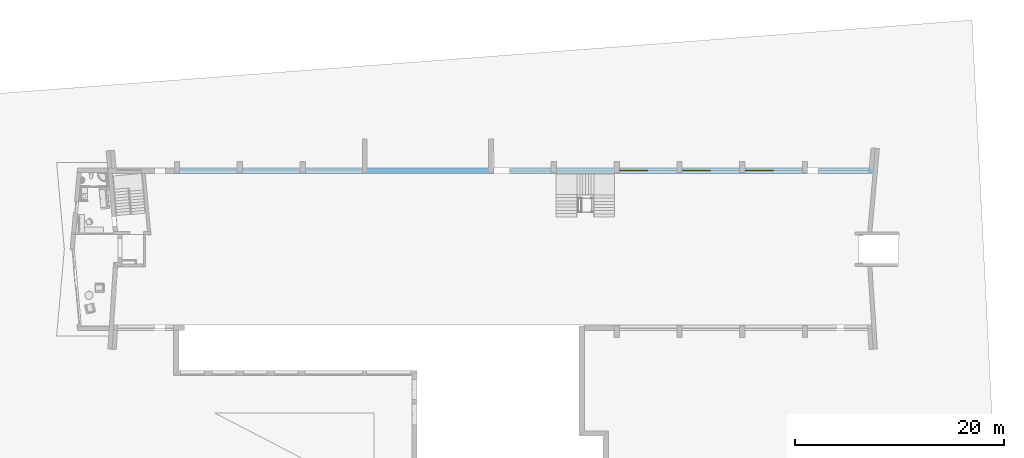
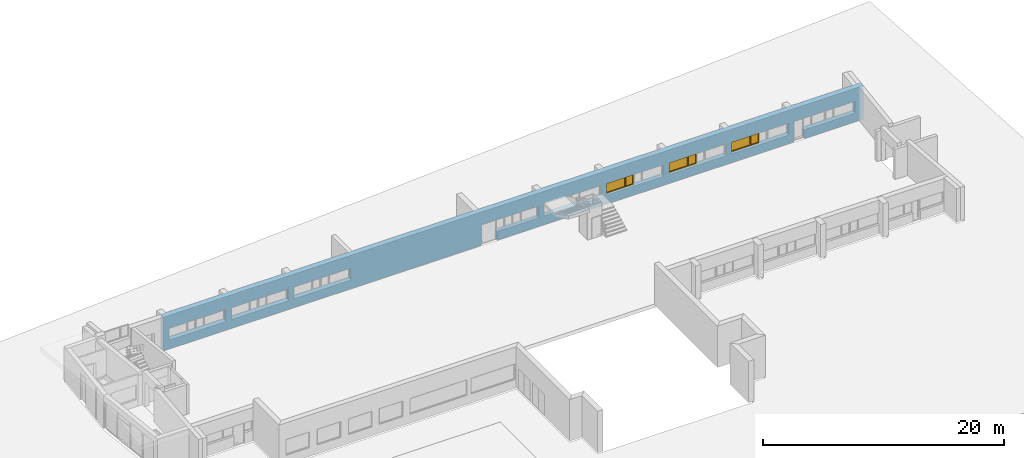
# One storey, part 8 of 36: 3 windows, 20 openings, plus 1 element that does not belong to this part.
"""IFC2X3 building model written with IfcOpenShell, lengths in millimetres."""

from ifc_helpers import new_model, entity, si_unit, converted_unit, money_unit, direction, frame, origin_with_axes, place, context, subcontext, project, spatial, polyline, outline, extrude, open_shell, faceted_brep, surface_model, source, transform, mapped, material, material_list, layer, layer_set, layer_usage, type_object, element, fill, save


model = new_model("IFC2X3")

# Units and contexts
model_context = context("Model", 3, precision=1e-05, world=origin_with_axes(), true_north=direction((0.0, 1.0)))
body_context = subcontext(model_context, "Body", "Model", "MODEL_VIEW")
ifc_project = project(units=[si_unit("LENGTHUNIT", "METRE", prefix="MILLI"), si_unit("AREAUNIT", "SQUARE_METRE"), si_unit("VOLUMEUNIT", "CUBIC_METRE"), converted_unit("PLANEANGLEUNIT", "DEGREE", entity("IfcPlaneAngleMeasure", 0.0174532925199), si_unit("PLANEANGLEUNIT", "RADIAN"), dimensions=[0, 0, 0, 0, 0, 0, 0]), si_unit("SOLIDANGLEUNIT", "STERADIAN"), money_unit("USD"), converted_unit("TIMEUNIT", "Year", entity("IfcTimeMeasure", 31556926.0), si_unit("TIMEUNIT", "SECOND"), dimensions=[0, 0, 0, 0, 0, 0, 0]), si_unit("MASSUNIT", "GRAM"), si_unit("THERMODYNAMICTEMPERATUREUNIT", "DEGREE_CELSIUS"), si_unit("LUMINOUSINTENSITYUNIT", "LUMEN")], contexts=[model_context])

# Site, building, storey
site_placement = place(None, origin_with_axes())
site = spatial("IfcSite", under=ifc_project, at=site_placement, Name="Site", CompositionType="ELEMENT")
building_placement = place(site_placement, origin_with_axes())
building = spatial("IfcBuilding", under=site, at=building_placement, Name="Building", CompositionType="ELEMENT")
storey_placement = place(building_placement, frame((0.0, 0.0, -3400.0), z_axis=(0.0, 0.0, 1.0), x_axis=(1.0, 0.0, 0.0)))
storey = spatial("IfcBuildingStorey", under=building, at=storey_placement, Name="1KORRUS", CompositionType="ELEMENT", Elevation=-3400.0)

# Wall, openings, windows
ifc_material_1 = material(Name="Olemasolevad seinad tellis, uus viimistlus")
ifc_layer = layer(ifc_material_1, 500.0, ventilated="UNKNOWN")
ifc_layer_set = layer_set([ifc_layer], Name="Olemasolevad seinad tellis, uus viimistlus 500")
ifc_layer_usage = layer_usage(ifc_layer_set, "AXIS2", "POSITIVE", -100.0)
wall_type = type_object("IfcWallType", Name="Olemasolevad seinad tellis, uus viimistlus 500", PredefinedType="NOTDEFINED")
wall_placement = place(storey_placement, frame((-48393.8274049, -5039.6041088, 0.0), z_axis=(0.0, 0.0, 1.0), x_axis=(1.0, 0.0, 0.0)))
wall = element("IfcWallStandardCase", 1, at=wall_placement, inside=storey, type_object=wall_type, material=ifc_layer_usage, Name="VS1", ObjectType="VS1", context=body_context, shape_type="SweptSolid", body=[
    extrude(outline(polyline([(0.0, -100.0), (67149.8194303, -100.0), (67149.8194303, 400.0), (0.0, 400.0), (0.0, -100.0)])), origin_with_axes(), (0.0, 0.0, 1.0), 3400.0),
])
opening_1_placement = place(wall_placement, frame((1878.53070154, 0.0, 900.0), z_axis=(0.0, 0.0, 1.0), x_axis=(1.0, 0.0, 0.0)))
element("IfcOpeningElement", 2, at=opening_1_placement, cuts=wall, Name="Olemasolevad aknad jäävad", context=body_context, shape_type="SweptSolid", body=[
    extrude(outline(polyline([(-1375.0, 1200.0), (-1375.0, 0.0), (1375.0, 0.0), (1375.0, 1200.0), (-1375.0, 1200.0)])), frame((0.0, 250.0, 0.0), z_axis=(0.0, -1.0, 0.0), x_axis=(1.0, 0.0, 0.0)), (0.0, 0.0, 1.0), 850.0),
    extrude(outline(polyline([(-1375.0, 0.0), (-1375.0, -1200.0), (1375.0, -1200.0), (1375.0, 0.0), (-1375.0, 0.0)])), frame((0.0, 250.0, 0.0), z_axis=(0.0, 1.0, 0.0), x_axis=(1.0, 0.0, 0.0)), (0.0, 0.0, 1.0), 650.0),
])
opening_2_placement = place(wall_placement, frame((7878.53070154, 0.0, 900.0), z_axis=(0.0, 0.0, 1.0), x_axis=(1.0, 0.0, 0.0)))
element("IfcOpeningElement", 3, at=opening_2_placement, cuts=wall, Name="Olemasolevad aknad jäävad", context=body_context, shape_type="SweptSolid", body=[
    extrude(outline(polyline([(-1375.0, 1200.0), (-1375.0, 0.0), (1375.0, 0.0), (1375.0, 1200.0), (-1375.0, 1200.0)])), frame((0.0, 250.0, 0.0), z_axis=(0.0, -1.0, 0.0), x_axis=(1.0, 0.0, 0.0)), (0.0, 0.0, 1.0), 850.0),
    extrude(outline(polyline([(-1375.0, 0.0), (-1375.0, -1200.0), (1375.0, -1200.0), (1375.0, 0.0), (-1375.0, 0.0)])), frame((0.0, 250.0, 0.0), z_axis=(0.0, 1.0, 0.0), x_axis=(1.0, 0.0, 0.0)), (0.0, 0.0, 1.0), 650.0),
])
opening_3_placement = place(wall_placement, frame((13878.5307015, 0.0, 900.0), z_axis=(0.0, 0.0, 1.0), x_axis=(1.0, 0.0, 0.0)))
element("IfcOpeningElement", 4, at=opening_3_placement, cuts=wall, Name="Olemasolevad aknad jäävad", context=body_context, shape_type="SweptSolid", body=[
    extrude(outline(polyline([(-1375.0, 1200.0), (-1375.0, 0.0), (1375.0, 0.0), (1375.0, 1200.0), (-1375.0, 1200.0)])), frame((0.0, 250.0, 0.0), z_axis=(0.0, -1.0, 0.0), x_axis=(1.0, 0.0, 0.0)), (0.0, 0.0, 1.0), 850.0),
    extrude(outline(polyline([(-1375.0, 0.0), (-1375.0, -1200.0), (1375.0, -1200.0), (1375.0, 0.0), (-1375.0, 0.0)])), frame((0.0, 250.0, 0.0), z_axis=(0.0, 1.0, 0.0), x_axis=(1.0, 0.0, 0.0)), (0.0, 0.0, 1.0), 650.0),
])
opening_4_placement = place(wall_placement, frame((4628.53070154, 0.0, 900.0), z_axis=(0.0, 0.0, 1.0), x_axis=(1.0, 0.0, 0.0)))
element("IfcOpeningElement", 5, at=opening_4_placement, cuts=wall, Name="Olemasolevad aknad jäävad", context=body_context, shape_type="SweptSolid", body=[
    extrude(outline(polyline([(1375.0, 1200.0), (-1375.0, 1200.0), (-1375.0, 0.0), (1375.0, 0.0), (1375.0, 1200.0)])), frame((0.0, 250.0, 0.0), z_axis=(0.0, -1.0, 0.0), x_axis=(1.0, 0.0, 0.0)), (0.0, 0.0, 1.0), 850.0),
    extrude(outline(polyline([(1375.0, 0.0), (-1375.0, 0.0), (-1375.0, -1200.0), (1375.0, -1200.0), (1375.0, 0.0)])), frame((0.0, 250.0, 0.0), z_axis=(0.0, 1.0, 0.0), x_axis=(1.0, 0.0, 0.0)), (0.0, 0.0, 1.0), 650.0),
])
opening_5_placement = place(wall_placement, frame((10628.5307015, 0.0, 900.0), z_axis=(0.0, 0.0, 1.0), x_axis=(1.0, 0.0, 0.0)))
element("IfcOpeningElement", 6, at=opening_5_placement, cuts=wall, Name="Olemasolevad aknad jäävad", context=body_context, shape_type="SweptSolid", body=[
    extrude(outline(polyline([(1375.0, 1200.0), (-1375.0, 1200.0), (-1375.0, 0.0), (1375.0, 0.0), (1375.0, 1200.0)])), frame((0.0, 250.0, 0.0), z_axis=(0.0, -1.0, 0.0), x_axis=(1.0, 0.0, 0.0)), (0.0, 0.0, 1.0), 850.0),
    extrude(outline(polyline([(1375.0, 0.0), (-1375.0, 0.0), (-1375.0, -1200.0), (1375.0, -1200.0), (1375.0, 0.0)])), frame((0.0, 250.0, 0.0), z_axis=(0.0, 1.0, 0.0), x_axis=(1.0, 0.0, 0.0)), (0.0, 0.0, 1.0), 650.0),
])
opening_6_placement = place(wall_placement, frame((16616.9651775, 0.0, 900.0), z_axis=(0.0, 0.0, 1.0), x_axis=(1.0, 0.0, 0.0)))
element("IfcOpeningElement", 7, at=opening_6_placement, cuts=wall, Name="Olemasolevad aknad jäävad", context=body_context, shape_type="SweptSolid", body=[
    extrude(outline(polyline([(1375.0, 1200.0), (-1375.0, 1200.0), (-1375.0, 0.0), (1375.0, 0.0), (1375.0, 1200.0)])), frame((0.0, 250.0, 0.0), z_axis=(0.0, -1.0, 0.0), x_axis=(1.0, 0.0, 0.0)), (0.0, 0.0, 1.0), 850.0),
    extrude(outline(polyline([(1375.0, 0.0), (-1375.0, 0.0), (-1375.0, -1200.0), (1375.0, -1200.0), (1375.0, 0.0)])), frame((0.0, 250.0, 0.0), z_axis=(0.0, 1.0, 0.0), x_axis=(1.0, 0.0, 0.0)), (0.0, 0.0, 1.0), 650.0),
])
opening_7_placement = place(wall_placement, frame((34803.5307015, 0.0, 900.0), z_axis=(0.0, 0.0, 1.0), x_axis=(1.0, 0.0, 0.0)))
element("IfcOpeningElement", 8, at=opening_7_placement, cuts=wall, Name="Olemasolevad aknad jäävad", context=body_context, shape_type="SweptSolid", body=[
    extrude(outline(polyline([(1200.0, 0.0), (-1200.0, 0.0), (-1200.0, -1200.0), (1200.0, -1200.0), (1200.0, 0.0)])), frame((0.0, 100.0, 0.0), z_axis=(0.0, 1.0, 0.0), x_axis=(1.0, 0.0, 0.0)), (0.0, 0.0, 1.0), 800.0),
    extrude(outline(polyline([(1200.0, 1200.0), (-1200.0, 1200.0), (-1200.0, 0.0), (1200.0, 0.0), (1200.0, 1200.0)])), frame((0.0, 100.0, 0.0), z_axis=(0.0, -1.0, 0.0), x_axis=(1.0, 0.0, 0.0)), (0.0, 0.0, 1.0), 700.0),
])
opening_8_placement = place(wall_placement, frame((40625.1633636, 0.0, 900.0), z_axis=(0.0, 0.0, 1.0), x_axis=(1.0, 0.0, 0.0)))
element("IfcOpeningElement", 9, at=opening_8_placement, cuts=wall, Name="Olemasolevad aknad jäävad", context=body_context, shape_type="SweptSolid", body=[
    extrude(outline(polyline([(1400.0, 0.0), (-1400.0, 0.0), (-1400.0, -1200.0), (1400.0, -1200.0), (1400.0, 0.0)])), frame((0.0, 100.0, 0.0), z_axis=(0.0, 1.0, 0.0), x_axis=(1.0, 0.0, 0.0)), (0.0, 0.0, 1.0), 800.0),
    extrude(outline(polyline([(1400.0, 1200.0), (-1400.0, 1200.0), (-1400.0, 0.0), (1400.0, 0.0), (1400.0, 1200.0)])), frame((0.0, 100.0, 0.0), z_axis=(0.0, -1.0, 0.0), x_axis=(1.0, 0.0, 0.0)), (0.0, 0.0, 1.0), 700.0),
])
opening_9_placement = place(wall_placement, frame((37871.3218818, 0.0, 900.0), z_axis=(0.0, 0.0, 1.0), x_axis=(1.0, 0.0, 0.0)))
element("IfcOpeningElement", 10, at=opening_9_placement, cuts=wall, Name="Olemasolevad aknad jäävad", context=body_context, shape_type="SweptSolid", body=[
    extrude(outline(polyline([(-1367.791, 0.0), (-1367.791, -1200.0), (1367.791, -1200.0), (1367.791, 0.0), (-1367.791, 0.0)])), frame((0.0, 150.0, 0.0), z_axis=(0.0, 1.0, 0.0), x_axis=(1.0, 0.0, 0.0)), (0.0, 0.0, 1.0), 750.0),
    extrude(outline(polyline([(-1367.791, 1200.0), (-1367.791, 0.0), (1367.791, 0.0), (1367.791, 1200.0), (-1367.791, 1200.0)])), frame((0.0, 150.0, 0.0), z_axis=(0.0, -1.0, 0.0), x_axis=(1.0, 0.0, 0.0)), (0.0, 0.0, 1.0), 750.0),
])
opening_10_placement = place(wall_placement, frame((46628.5307015, 0.0, 900.0), z_axis=(0.0, 0.0, 1.0), x_axis=(1.0, 0.0, 0.0)))
element("IfcOpeningElement", 11, at=opening_10_placement, cuts=wall, Name="Olemasolevad aknad jäävad", context=body_context, shape_type="SweptSolid", body=[
    extrude(outline(polyline([(1375.0, 1200.0), (-1375.0, 1200.0), (-1375.0, 0.0), (1375.0, 0.0), (1375.0, 1200.0)])), frame((0.0, 150.0, 0.0), z_axis=(0.0, -1.0, 0.0), x_axis=(1.0, 0.0, 0.0)), (0.0, 0.0, 1.0), 750.0),
    extrude(outline(polyline([(1375.0, 0.0), (-1375.0, 0.0), (-1375.0, -1200.0), (1375.0, -1200.0), (1375.0, 0.0)])), frame((0.0, 150.0, 0.0), z_axis=(0.0, 1.0, 0.0), x_axis=(1.0, 0.0, 0.0)), (0.0, 0.0, 1.0), 750.0),
])
opening_11_placement = place(wall_placement, frame((43878.5307015, 0.0, 900.0), z_axis=(0.0, 0.0, 1.0), x_axis=(1.0, 0.0, 0.0)))
opening_11 = element("IfcOpeningElement", 12, at=opening_11_placement, cuts=wall, Name="Olemasolevad aknad jäävad", context=body_context, shape_type="SweptSolid", body=[
    extrude(outline(polyline([(-1375.0, 1200.0), (-1375.0, 0.0), (1375.0, 0.0), (1375.0, 1200.0), (-1375.0, 1200.0)])), frame((0.0, 200.0, 0.0), z_axis=(0.0, -1.0, 0.0), x_axis=(1.0, 0.0, 0.0)), (0.0, 0.0, 1.0), 800.0),
    extrude(outline(polyline([(-1375.0, 0.0), (-1375.0, -1200.0), (1375.0, -1200.0), (1375.0, 0.0), (-1375.0, 0.0)])), frame((0.0, 200.0, 0.0), z_axis=(0.0, 1.0, 0.0), x_axis=(1.0, 0.0, 0.0)), (0.0, 0.0, 1.0), 700.0),
])
opening_12_placement = place(wall_placement, frame((52635.3834465, 0.0, 900.0), z_axis=(0.0, 0.0, 1.0), x_axis=(1.0, 0.0, 0.0)))
element("IfcOpeningElement", 13, at=opening_12_placement, cuts=wall, Name="Olemasolevad aknad jäävad", context=body_context, shape_type="SweptSolid", body=[
    extrude(outline(polyline([(1376.809, 1200.0), (-1376.809, 1200.0), (-1376.809, 0.0), (1376.809, 0.0), (1376.809, 1200.0)])), frame((0.0, 150.0, 0.0), z_axis=(0.0, -1.0, 0.0), x_axis=(1.0, 0.0, 0.0)), (0.0, 0.0, 1.0), 750.0),
    extrude(outline(polyline([(1376.809, 0.0), (-1376.809, 0.0), (-1376.809, -1200.0), (1376.809, -1200.0), (1376.809, 0.0)])), frame((0.0, 150.0, 0.0), z_axis=(0.0, 1.0, 0.0), x_axis=(1.0, 0.0, 0.0)), (0.0, 0.0, 1.0), 750.0),
])
opening_13_placement = place(wall_placement, frame((49883.9987013, 0.0, 900.0), z_axis=(0.0, 0.0, 1.0), x_axis=(1.0, 0.0, 0.0)))
opening_13 = element("IfcOpeningElement", 14, at=opening_13_placement, cuts=wall, Name="Olemasolevad aknad jäävad", context=body_context, shape_type="SweptSolid", body=[
    extrude(outline(polyline([(-1375.0, 1200.0), (-1375.0, 0.0), (1375.0, 0.0), (1375.0, 1200.0), (-1375.0, 1200.0)])), frame((0.0, 200.0, 0.0), z_axis=(0.0, -1.0, 0.0), x_axis=(1.0, 0.0, 0.0)), (0.0, 0.0, 1.0), 800.0),
    extrude(outline(polyline([(-1375.0, 0.0), (-1375.0, -1200.0), (1375.0, -1200.0), (1375.0, 0.0), (-1375.0, 0.0)])), frame((0.0, 200.0, 0.0), z_axis=(0.0, 1.0, 0.0), x_axis=(1.0, 0.0, 0.0)), (0.0, 0.0, 1.0), 700.0),
])
opening_14_placement = place(wall_placement, frame((58631.8843372, 0.0, 900.0), z_axis=(0.0, 0.0, 1.0), x_axis=(1.0, 0.0, 0.0)))
element("IfcOpeningElement", 15, at=opening_14_placement, cuts=wall, Name="Olemasolevad aknad jäävad", context=body_context, shape_type="SweptSolid", body=[
    extrude(outline(polyline([(1371.646, 1200.0), (-1371.646, 1200.0), (-1371.646, 0.0), (1371.646, 0.0), (1371.646, 1200.0)])), frame((0.0, 150.0, 0.0), z_axis=(0.0, -1.0, 0.0), x_axis=(1.0, 0.0, 0.0)), (0.0, 0.0, 1.0), 750.0),
    extrude(outline(polyline([(1371.646, 0.0), (-1371.646, 0.0), (-1371.646, -1200.0), (1371.646, -1200.0), (1371.646, 0.0)])), frame((0.0, 150.0, 0.0), z_axis=(0.0, 1.0, 0.0), x_axis=(1.0, 0.0, 0.0)), (0.0, 0.0, 1.0), 750.0),
])
opening_15_placement = place(wall_placement, frame((55886.6217615, 0.0, 900.0), z_axis=(0.0, 0.0, 1.0), x_axis=(1.0, 0.0, 0.0)))
opening_15 = element("IfcOpeningElement", 16, at=opening_15_placement, cuts=wall, Name="Olemasolevad aknad jäävad", context=body_context, shape_type="SweptSolid", body=[
    extrude(outline(polyline([(-1375.0, 1200.0), (-1375.0, 0.0), (1375.0, 0.0), (1375.0, 1200.0), (-1375.0, 1200.0)])), frame((0.0, 200.0, 0.0), z_axis=(0.0, -1.0, 0.0), x_axis=(1.0, 0.0, 0.0)), (0.0, 0.0, 1.0), 800.0),
    extrude(outline(polyline([(-1375.0, 0.0), (-1375.0, -1200.0), (1375.0, -1200.0), (1375.0, 0.0), (-1375.0, 0.0)])), frame((0.0, 200.0, 0.0), z_axis=(0.0, 1.0, 0.0), x_axis=(1.0, 0.0, 0.0)), (0.0, 0.0, 1.0), 700.0),
])
opening_16_placement = place(wall_placement, frame((64995.2517085, 0.0, 900.0), z_axis=(0.0, 0.0, 1.0), x_axis=(1.0, 0.0, 0.0)))
element("IfcOpeningElement", 17, at=opening_16_placement, cuts=wall, Name="Olemasolevad aknad jäävad", context=body_context, shape_type="SweptSolid", body=[
    extrude(outline(polyline([(1375.0, 1200.0), (-1375.0, 1200.0), (-1375.0, 0.0), (1375.0, 0.0), (1375.0, 1200.0)])), frame((0.0, 150.0, 0.0), z_axis=(0.0, -1.0, 0.0), x_axis=(1.0, 0.0, 0.0)), (0.0, 0.0, 1.0), 750.0),
    extrude(outline(polyline([(1375.0, 0.0), (-1375.0, 0.0), (-1375.0, -1200.0), (1375.0, -1200.0), (1375.0, 0.0)])), frame((0.0, 150.0, 0.0), z_axis=(0.0, 1.0, 0.0), x_axis=(1.0, 0.0, 0.0)), (0.0, 0.0, 1.0), 750.0),
])
opening_17_placement = place(wall_placement, frame((32810.8244307, 0.0, 900.0), z_axis=(0.0, 0.0, 1.0), x_axis=(1.0, 0.0, 0.0)))
element("IfcOpeningElement", 18, at=opening_17_placement, cuts=wall, Name="Olemasolevad aknad jäävad", context=body_context, shape_type="SweptSolid", body=[
    extrude(outline(polyline([(792.706, 0.0), (-792.706, 0.0), (-792.706, -1200.0), (792.706, -1200.0), (792.706, 0.0)])), frame((0.0, 100.0, 0.0), z_axis=(0.0, 1.0, 0.0), x_axis=(1.0, 0.0, 0.0)), (0.0, 0.0, 1.0), 800.0),
    extrude(outline(polyline([(792.706, 1200.0), (-792.706, 1200.0), (-792.706, 0.0), (792.706, 0.0), (792.706, 1200.0)])), frame((0.0, 100.0, 0.0), z_axis=(0.0, -1.0, 0.0), x_axis=(1.0, 0.0, 0.0)), (0.0, 0.0, 1.0), 700.0),
])
opening_18_placement = place(wall_placement, frame((62561.891205, 0.0, 900.0), z_axis=(0.0, 0.0, 1.0), x_axis=(1.0, 0.0, 0.0)))
element("IfcOpeningElement", 19, at=opening_18_placement, cuts=wall, Name="Olemasolevad aknad jäävad", context=body_context, shape_type="SweptSolid", body=[
    extrude(outline(polyline([(1058.361, 1200.0), (-1058.361, 1200.0), (-1058.361, 0.0), (1058.361, 0.0), (1058.361, 1200.0)])), frame((0.0, 150.0, 0.0), z_axis=(0.0, -1.0, 0.0), x_axis=(1.0, 0.0, 0.0)), (0.0, 0.0, 1.0), 750.0),
    extrude(outline(polyline([(1058.361, 0.0), (-1058.361, 0.0), (-1058.361, -1200.0), (1058.361, -1200.0), (1058.361, 0.0)])), frame((0.0, 150.0, 0.0), z_axis=(0.0, 1.0, 0.0), x_axis=(1.0, 0.0, 0.0)), (0.0, 0.0, 1.0), 750.0),
])
opening_19_placement = place(wall_placement, frame((61003.5307015, 0.0, -4.66441168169), z_axis=(0.0, 0.0, 1.0), x_axis=(1.0, 0.0, 0.0)))
element("IfcOpeningElement", 20, at=opening_19_placement, cuts=wall, Name="ava", context=body_context, shape_type="SweptSolid", body=[
    extrude(outline(polyline([(-500.0, 2100.0), (-500.0, 0.0), (500.0, 0.0), (500.0, 2100.0), (-500.0, 2100.0)])), frame((0.0, 200.0, 0.0), z_axis=(0.0, 1.0, 0.0), x_axis=(-1.0, 0.0, 0.0)), (0.0, 0.0, -1.0), 800.0),
    extrude(outline(polyline([(-500.0, 0.0), (-500.0, -2100.0), (500.0, -2100.0), (500.0, 0.0), (-500.0, 0.0)])), frame((0.0, 200.0, 0.0), z_axis=(0.0, -1.0, 0.0), x_axis=(-1.0, 0.0, 0.0)), (0.0, 0.0, -1.0), 700.0),
])
opening_20_placement = place(wall_placement, frame((31268.1181599, 0.0, 0.0), z_axis=(0.0, 0.0, 1.0), x_axis=(1.0, 0.0, 0.0)))
element("IfcOpeningElement", 21, at=opening_20_placement, cuts=wall, Name="ava", context=body_context, shape_type="SweptSolid", body=[
    extrude(outline(polyline([(-750.0, 2100.0), (-750.0, 0.0), (750.0, 0.0), (750.0, 2100.0), (-750.0, 2100.0)])), frame((0.0, 200.0, 0.0), z_axis=(0.0, -1.0, 0.0), x_axis=(1.0, 0.0, 0.0)), (0.0, 0.0, 1.0), 800.0),
    extrude(outline(polyline([(-750.0, 0.0), (-750.0, -2100.0), (750.0, -2100.0), (750.0, 0.0), (-750.0, 0.0)])), frame((0.0, 200.0, 0.0), z_axis=(0.0, 1.0, 0.0), x_axis=(1.0, 0.0, 0.0)), (0.0, 0.0, 1.0), 700.0),
])
ifc_material_2 = material(Name="Background")
ifc_material_list = material_list([ifc_material_2])
window_style = type_object("IfcWindowStyle", Name="Double Window 19", ConstructionType="NOTDEFINED", OperationType="DOUBLE_PANEL_VERTICAL", ParameterTakesPrecedence=False, Sizeable=False)
shared_shape = source(origin_with_axes(), body_context, "Body", "SurfaceModel", [
    faceted_brep([(-1350.0, -200.0, 1150.0), (-1375.0, -200.0, 1150.0), (-1375.0, -250.0, 1150.0), (-1325.0, -250.0, 1150.0), (-1325.0, -225.0, 1150.0), (-1350.0, -225.0, 1150.0), (-1350.0, -200.0, 50.0), (-1375.0, -200.0, 50.0), (-1375.0, -250.0, 50.0), (-1325.0, -250.0, 50.0), (-1325.0, -225.0, 50.0), (-1350.0, -225.0, 50.0)], [[[0, 1, 2, 3, 4, 5]], [[6, 7, 1, 0]], [[1, 7, 8, 2]], [[2, 8, 9, 3]], [[4, 3, 9, 10]], [[10, 11, 5, 4]], [[5, 11, 6, 0]], [[11, 10, 9, 8, 7, 6]]]),
    faceted_brep([(1325.0, -225.0, 1150.0), (1325.0, -250.0, 1150.0), (1375.0, -250.0, 1150.0), (1375.0, -200.0, 1150.0), (1350.0, -200.0, 1150.0), (1350.0, -225.0, 1150.0), (1325.0, -225.0, 50.0), (1325.0, -250.0, 50.0), (1375.0, -250.0, 50.0), (1375.0, -200.0, 50.0), (1350.0, -200.0, 50.0), (1350.0, -225.0, 50.0)], [[[0, 1, 2, 3, 4, 5]], [[6, 7, 1, 0]], [[8, 2, 1, 7]], [[9, 3, 2, 8]], [[4, 3, 9, 10]], [[10, 11, 5, 4]], [[5, 11, 6, 0]], [[11, 10, 9, 8, 7, 6]]]),
    faceted_brep([(525.0, -225.0, 1150.0), (525.0, -250.0, 1150.0), (625.0, -250.0, 1150.0), (625.0, -225.0, 1150.0), (600.0, -225.0, 1150.0), (600.0, -200.0, 1150.0), (550.0, -200.0, 1150.0), (550.0, -225.0, 1150.0), (525.0, -225.0, 50.0), (525.0, -250.0, 50.0), (625.0, -250.0, 50.0), (625.0, -225.0, 50.0), (600.0, -225.0, 50.0), (600.0, -200.0, 50.0), (550.0, -200.0, 50.0), (550.0, -225.0, 50.0)], [[[0, 1, 2, 3, 4, 5, 6, 7]], [[8, 9, 1, 0]], [[10, 2, 1, 9]], [[3, 2, 10, 11]], [[11, 12, 4, 3]], [[4, 12, 13, 5]], [[6, 5, 13, 14]], [[14, 15, 7, 6]], [[7, 15, 8, 0]], [[15, 14, 13, 12, 11, 10, 9, 8]]]),
    faceted_brep([(525.0, -225.0, 50.0), (525.0, -250.0, 50.0), (625.0, -250.0, 50.0), (625.0, -225.0, 50.0), (600.0, -225.0, 50.0), (600.0, -200.0, 50.0), (550.0, -200.0, 50.0), (550.0, -225.0, 50.0), (-1325.0, -225.0, 50.0), (-1325.0, -250.0, 50.0), (-1375.0, -250.0, 50.0), (-1375.0, -250.0, 0.0), (1375.0, -250.0, 0.0), (1375.0, -250.0, 50.0), (1325.0, -250.0, 50.0), (1325.0, -225.0, 50.0), (1350.0, -225.0, 50.0), (1350.0, -225.0, 25.0), (600.0, -225.0, 25.0), (600.0, -200.0, 25.0), (-1350.0, -200.0, 25.0), (550.0, -200.0, 25.0), (1350.0, -200.0, 25.0), (1350.0, -200.0, 50.0), (1375.0, -200.0, 50.0), (1375.0, -200.0, 0.0), (-1375.0, -200.0, 0.0), (-1375.0, -200.0, 50.0), (-1350.0, -200.0, 50.0), (550.0, -225.0, 25.0), (-1350.0, -225.0, 25.0), (-1350.0, -225.0, 50.0)], [[[0, 1, 2, 3, 4, 5, 6, 7]], [[8, 9, 1, 0]], [[10, 11, 12, 13, 14, 2, 1, 9]], [[3, 2, 14, 15]], [[16, 17, 18, 4, 3, 15]], [[4, 18, 19, 5]], [[20, 21, 6, 5, 19, 22, 23, 24, 25, 26, 27, 28]], [[21, 29, 7, 6]], [[7, 29, 30, 31, 8, 0]], [[31, 28, 27, 10, 9, 8]], [[27, 26, 11, 10]], [[26, 25, 12, 11]], [[25, 24, 13, 12]], [[15, 14, 13, 24, 23, 16]], [[22, 17, 16, 23]], [[19, 18, 17, 22]], [[20, 30, 29, 21]], [[31, 30, 20, 28]]]),
    faceted_brep([(-1350.0, -200.0, 1150.0), (-1375.0, -200.0, 1150.0), (-1375.0, -200.0, 1200.0), (1375.0, -200.0, 1200.0), (1375.0, -200.0, 1150.0), (1350.0, -200.0, 1150.0), (1350.0, -200.0, 1175.0), (600.0, -200.0, 1175.0), (600.0, -200.0, 1150.0), (550.0, -200.0, 1150.0), (550.0, -200.0, 1175.0), (-1350.0, -200.0, 1175.0), (-1350.0, -225.0, 1150.0), (-1325.0, -225.0, 1150.0), (-1325.0, -250.0, 1150.0), (-1375.0, -250.0, 1150.0), (-1375.0, -250.0, 1200.0), (1375.0, -250.0, 1200.0), (1375.0, -250.0, 1150.0), (1350.0, -225.0, 1150.0), (1325.0, -250.0, 1150.0), (1325.0, -225.0, 1150.0), (1350.0, -225.0, 1175.0), (600.0, -225.0, 1175.0), (600.0, -225.0, 1150.0), (550.0, -225.0, 1150.0), (625.0, -225.0, 1150.0), (625.0, -250.0, 1150.0), (525.0, -250.0, 1150.0), (525.0, -225.0, 1150.0), (550.0, -225.0, 1175.0), (-1350.0, -225.0, 1175.0)], [[[0, 1, 2, 3, 4, 5, 6, 7, 8, 9, 10, 11]], [[12, 13, 14, 15, 1, 0]], [[2, 1, 15, 16]], [[3, 2, 16, 17]], [[4, 3, 17, 18]], [[19, 5, 4, 18, 20, 21]], [[5, 19, 22, 6]], [[6, 22, 23, 7]], [[7, 23, 24, 8]], [[25, 9, 8, 24, 26, 27, 28, 29]], [[9, 25, 30, 10]], [[10, 30, 31, 11]], [[11, 31, 12, 0]], [[29, 13, 12, 31, 30, 25]], [[29, 28, 14, 13]], [[27, 20, 18, 17, 16, 15, 14, 28]], [[21, 20, 27, 26]], [[21, 26, 24, 23, 22, 19]]]),
    faceted_brep([(-1300.0, -225.0, 1125.0), (-1300.0, -175.0, 1125.0), (-1350.0, -175.0, 1125.0), (-1350.0, -225.0, 1125.0), (-1300.0, -225.0, 75.0), (-1300.0, -175.0, 75.0), (-1350.0, -175.0, 75.0), (-1350.0, -225.0, 75.0)], [[[0, 1, 2, 3]], [[4, 5, 1, 0]], [[1, 5, 6, 2]], [[3, 2, 6, 7]], [[0, 3, 7, 4]], [[7, 6, 5, 4]]]),
    faceted_brep([(500.0, -225.0, 75.0), (500.0, -175.0, 75.0), (550.0, -175.0, 75.0), (550.0, -225.0, 75.0), (500.0, -225.0, 1125.0), (500.0, -175.0, 1125.0), (550.0, -175.0, 1125.0), (550.0, -225.0, 1125.0)], [[[0, 1, 2, 3]], [[4, 5, 1, 0]], [[1, 5, 6, 2]], [[3, 2, 6, 7]], [[0, 3, 7, 4]], [[7, 6, 5, 4]]]),
    faceted_brep([(550.0, -225.0, 25.0), (550.0, -175.0, 25.0), (550.0, -175.0, 75.0), (550.0, -225.0, 75.0), (-1350.0, -225.0, 25.0), (-1350.0, -175.0, 25.0), (-1350.0, -175.0, 75.0), (-1300.0, -175.0, 75.0), (500.0, -175.0, 75.0), (500.0, -225.0, 75.0), (-1300.0, -225.0, 75.0), (-1350.0, -225.0, 75.0)], [[[0, 1, 2, 3]], [[4, 5, 1, 0]], [[1, 5, 6, 7, 8, 2]], [[3, 2, 8, 9]], [[0, 3, 9, 10, 11, 4]], [[11, 6, 5, 4]], [[10, 7, 6, 11]], [[9, 8, 7, 10]]]),
    faceted_brep([(-1350.0, -225.0, 1175.0), (-1350.0, -175.0, 1175.0), (-1350.0, -175.0, 1125.0), (-1350.0, -225.0, 1125.0), (550.0, -225.0, 1175.0), (550.0, -175.0, 1175.0), (550.0, -175.0, 1125.0), (500.0, -175.0, 1125.0), (-1300.0, -175.0, 1125.0), (-1300.0, -225.0, 1125.0), (500.0, -225.0, 1125.0), (550.0, -225.0, 1125.0)], [[[0, 1, 2, 3]], [[4, 5, 1, 0]], [[1, 5, 6, 7, 8, 2]], [[3, 2, 8, 9]], [[0, 3, 9, 10, 11, 4]], [[11, 6, 5, 4]], [[10, 7, 6, 11]], [[9, 8, 7, 10]]]),
    surface_model("IfcShellBasedSurfaceModel", [(-1300.0, -210.0, 75.0), (500.0, -210.0, 75.0), (500.0, -210.0, 1125.0), (-1300.0, -210.0, 1125.0)], [open_shell([[[0, 1, 2, 3]]])]),
    surface_model("IfcShellBasedSurfaceModel", [(-1300.0, -190.0, 75.0), (-1300.0, -190.0, 1125.0), (500.0, -190.0, 1125.0), (500.0, -190.0, 75.0)], [open_shell([[[0, 1, 2, 3]]])]),
    faceted_brep([(650.0, -225.0, 1125.0), (650.0, -175.0, 1125.0), (600.0, -175.0, 1125.0), (600.0, -225.0, 1125.0), (650.0, -225.0, 75.0), (650.0, -175.0, 75.0), (600.0, -175.0, 75.0), (600.0, -225.0, 75.0)], [[[0, 1, 2, 3]], [[4, 5, 1, 0]], [[1, 5, 6, 2]], [[3, 2, 6, 7]], [[0, 3, 7, 4]], [[7, 6, 5, 4]]]),
    faceted_brep([(1300.0, -225.0, 75.0), (1300.0, -175.0, 75.0), (1350.0, -175.0, 75.0), (1350.0, -225.0, 75.0), (1300.0, -225.0, 1125.0), (1300.0, -175.0, 1125.0), (1350.0, -175.0, 1125.0), (1350.0, -225.0, 1125.0)], [[[0, 1, 2, 3]], [[4, 5, 1, 0]], [[1, 5, 6, 2]], [[3, 2, 6, 7]], [[0, 3, 7, 4]], [[7, 6, 5, 4]]]),
    faceted_brep([(1350.0, -225.0, 25.0), (1350.0, -175.0, 25.0), (1350.0, -175.0, 75.0), (1350.0, -225.0, 75.0), (600.0, -225.0, 25.0), (600.0, -175.0, 25.0), (600.0, -175.0, 75.0), (650.0, -175.0, 75.0), (1300.0, -175.0, 75.0), (1300.0, -225.0, 75.0), (650.0, -225.0, 75.0), (600.0, -225.0, 75.0)], [[[0, 1, 2, 3]], [[4, 5, 1, 0]], [[1, 5, 6, 7, 8, 2]], [[3, 2, 8, 9]], [[0, 3, 9, 10, 11, 4]], [[11, 6, 5, 4]], [[10, 7, 6, 11]], [[9, 8, 7, 10]]]),
    faceted_brep([(600.0, -225.0, 1175.0), (600.0, -175.0, 1175.0), (600.0, -175.0, 1125.0), (600.0, -225.0, 1125.0), (1350.0, -225.0, 1175.0), (1350.0, -175.0, 1175.0), (1350.0, -175.0, 1125.0), (1300.0, -175.0, 1125.0), (650.0, -175.0, 1125.0), (650.0, -225.0, 1125.0), (1300.0, -225.0, 1125.0), (1350.0, -225.0, 1125.0)], [[[0, 1, 2, 3]], [[4, 5, 1, 0]], [[1, 5, 6, 7, 8, 2]], [[3, 2, 8, 9]], [[0, 3, 9, 10, 11, 4]], [[11, 6, 5, 4]], [[10, 7, 6, 11]], [[9, 8, 7, 10]]]),
    surface_model("IfcShellBasedSurfaceModel", [(650.0, -210.0, 75.0), (1300.0, -210.0, 75.0), (1300.0, -210.0, 1125.0), (650.0, -210.0, 1125.0)], [open_shell([[[0, 1, 2, 3]]])]),
    surface_model("IfcShellBasedSurfaceModel", [(650.0, -190.0, 75.0), (650.0, -190.0, 1125.0), (1300.0, -190.0, 1125.0), (1300.0, -190.0, 75.0)], [open_shell([[[0, 1, 2, 3]]])]),
])
window_1_placement = place(opening_11_placement, frame((-1375.0, 0.0, 0.0), z_axis=(0.0, 0.0, 1.0), x_axis=(1.0, 0.0, 0.0)))
window_1 = element("IfcWindow", 22, at=window_1_placement, inside=storey, type_object=window_style, material=ifc_material_list, Name="Olemasolevad aknad jäävad", ObjectType="Olemasolevad aknad jäävad", OverallHeight=1200.0, OverallWidth=2750.0, context=body_context, shape_type="MappedRepresentation", body=[
    mapped(shared_shape, transform((1375.0, 400.0, 0.0))),
])
fill(opening_11, window_1)
window_2_placement = place(opening_13_placement, frame((-1375.0, 0.0, 0.0), z_axis=(0.0, 0.0, 1.0), x_axis=(1.0, 0.0, 0.0)))
window_2 = element("IfcWindow", 23, at=window_2_placement, inside=storey, type_object=window_style, material=ifc_material_list, Name="Olemasolevad aknad jäävad", ObjectType="Olemasolevad aknad jäävad", OverallHeight=1200.0, OverallWidth=2750.0, context=body_context, shape_type="MappedRepresentation", body=[
    mapped(shared_shape, transform((1375.0, 400.0, 0.0))),
])
fill(opening_13, window_2)
window_3_placement = place(opening_15_placement, frame((-1375.0, 0.0, 0.0), z_axis=(0.0, 0.0, 1.0), x_axis=(1.0, 0.0, 0.0)))
window_3 = element("IfcWindow", 24, at=window_3_placement, inside=storey, type_object=window_style, material=ifc_material_list, Name="Olemasolevad aknad jäävad", ObjectType="Olemasolevad aknad jäävad", OverallHeight=1200.0, OverallWidth=2750.0, context=body_context, shape_type="MappedRepresentation", body=[
    mapped(shared_shape, transform((1375.0, 400.0, 0.0))),
])
fill(opening_15, window_3)

save(model, "model.ifc")
